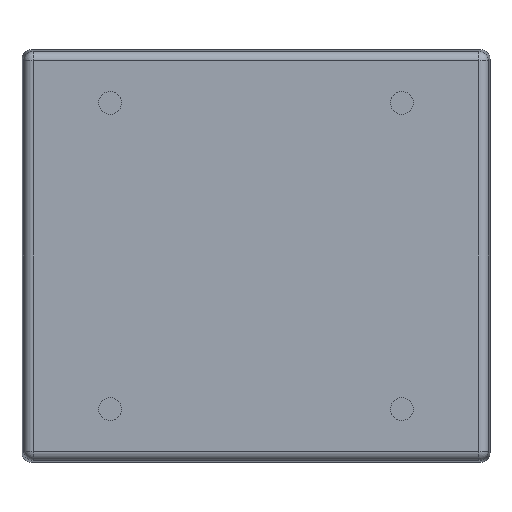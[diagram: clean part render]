
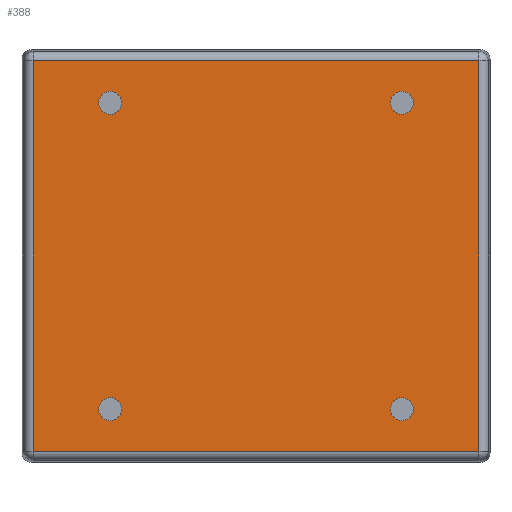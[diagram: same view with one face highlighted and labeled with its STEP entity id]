
A CAD part, front view. The second image highlights one B-rep face of the part: STEP entity #388.
In plain terms, the highlighted planar face has unit normal (0, -1, 0).
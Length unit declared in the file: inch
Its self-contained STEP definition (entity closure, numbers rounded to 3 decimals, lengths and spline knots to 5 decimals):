
#1=DIRECTION('',(0.,0.,1.));
#2=VECTOR('',#1,10.50865);
#3=CARTESIAN_POINT('',(6.00433,0.,-5.25433));
#4=LINE('',#3,#2);
#5=DIRECTION('',(1.,0.,0.));
#6=VECTOR('',#5,12.00865);
#7=CARTESIAN_POINT('',(-6.00433,0.,-5.25433));
#8=LINE('',#7,#6);
#9=DIRECTION('',(0.,0.,-1.));
#10=VECTOR('',#9,10.50865);
#11=CARTESIAN_POINT('',(-6.00433,0.,5.25433));
#12=LINE('',#11,#10);
#13=DIRECTION('',(-1.,0.,0.));
#14=VECTOR('',#13,12.00865);
#15=CARTESIAN_POINT('',(6.00433,0.,5.25433));
#16=LINE('',#15,#14);
#17=CARTESIAN_POINT('',(3.93,0.,4.125));
#18=DIRECTION('',(0.,-1.,0.));
#19=DIRECTION('',(1.,0.,0.));
#20=AXIS2_PLACEMENT_3D('',#17,#18,#19);
#22=CARTESIAN_POINT('',(3.93,0.,4.125));
#23=DIRECTION('',(0.,-1.,0.));
#24=DIRECTION('',(-1.,0.,0.));
#25=AXIS2_PLACEMENT_3D('',#22,#23,#24);
#27=CARTESIAN_POINT('',(-3.93,0.,4.125));
#28=DIRECTION('',(0.,-1.,0.));
#29=DIRECTION('',(1.,0.,0.));
#30=AXIS2_PLACEMENT_3D('',#27,#28,#29);
#32=CARTESIAN_POINT('',(-3.93,0.,4.125));
#33=DIRECTION('',(0.,-1.,0.));
#34=DIRECTION('',(-1.,0.,0.));
#35=AXIS2_PLACEMENT_3D('',#32,#33,#34);
#37=CARTESIAN_POINT('',(-3.93,0.,-4.125));
#38=DIRECTION('',(0.,-1.,0.));
#39=DIRECTION('',(1.,0.,0.));
#40=AXIS2_PLACEMENT_3D('',#37,#38,#39);
#42=CARTESIAN_POINT('',(-3.93,0.,-4.125));
#43=DIRECTION('',(0.,-1.,0.));
#44=DIRECTION('',(-1.,0.,0.));
#45=AXIS2_PLACEMENT_3D('',#42,#43,#44);
#47=CARTESIAN_POINT('',(3.93,0.,-4.125));
#48=DIRECTION('',(0.,-1.,0.));
#49=DIRECTION('',(1.,0.,0.));
#50=AXIS2_PLACEMENT_3D('',#47,#48,#49);
#52=CARTESIAN_POINT('',(3.93,0.,-4.125));
#53=DIRECTION('',(0.,-1.,0.));
#54=DIRECTION('',(-1.,0.,0.));
#55=AXIS2_PLACEMENT_3D('',#52,#53,#54);
#289=CARTESIAN_POINT('',(6.00433,0.,-5.25433));
#290=CARTESIAN_POINT('',(6.00433,0.,5.25433));
#291=VERTEX_POINT('',#289);
#292=VERTEX_POINT('',#290);
#297=CARTESIAN_POINT('',(-6.00433,0.,5.25433));
#298=VERTEX_POINT('',#297);
#299=CARTESIAN_POINT('',(-6.00433,0.,-5.25433));
#300=VERTEX_POINT('',#299);
#333=CARTESIAN_POINT('',(4.24,0.,4.125));
#334=CARTESIAN_POINT('',(3.62,0.,4.125));
#335=VERTEX_POINT('',#333);
#336=VERTEX_POINT('',#334);
#337=CARTESIAN_POINT('',(-3.62,0.,4.125));
#338=CARTESIAN_POINT('',(-4.24,0.,4.125));
#339=VERTEX_POINT('',#337);
#340=VERTEX_POINT('',#338);
#341=CARTESIAN_POINT('',(-3.62,0.,-4.125));
#342=CARTESIAN_POINT('',(-4.24,0.,-4.125));
#343=VERTEX_POINT('',#341);
#344=VERTEX_POINT('',#342);
#345=CARTESIAN_POINT('',(4.24,0.,-4.125));
#346=CARTESIAN_POINT('',(3.62,0.,-4.125));
#347=VERTEX_POINT('',#345);
#348=VERTEX_POINT('',#346);
#349=CARTESIAN_POINT('',(-6.25,0.,-5.5));
#350=DIRECTION('',(0.,-1.,0.));
#351=DIRECTION('',(1.,0.,0.));
#352=AXIS2_PLACEMENT_3D('',#349,#350,#351);
#353=PLANE('',#352);
#355=ORIENTED_EDGE('',*,*,#354,.F.);
#357=ORIENTED_EDGE('',*,*,#356,.F.);
#359=ORIENTED_EDGE('',*,*,#358,.F.);
#361=ORIENTED_EDGE('',*,*,#360,.F.);
#362=EDGE_LOOP('',(#355,#357,#359,#361));
#363=FACE_OUTER_BOUND('',#362,.F.);
#365=ORIENTED_EDGE('',*,*,#364,.T.);
#367=ORIENTED_EDGE('',*,*,#366,.T.);
#368=EDGE_LOOP('',(#365,#367));
#369=FACE_BOUND('',#368,.F.);
#371=ORIENTED_EDGE('',*,*,#370,.T.);
#373=ORIENTED_EDGE('',*,*,#372,.T.);
#374=EDGE_LOOP('',(#371,#373));
#375=FACE_BOUND('',#374,.F.);
#377=ORIENTED_EDGE('',*,*,#376,.T.);
#379=ORIENTED_EDGE('',*,*,#378,.T.);
#380=EDGE_LOOP('',(#377,#379));
#381=FACE_BOUND('',#380,.F.);
#383=ORIENTED_EDGE('',*,*,#382,.T.);
#385=ORIENTED_EDGE('',*,*,#384,.T.);
#386=EDGE_LOOP('',(#383,#385));
#387=FACE_BOUND('',#386,.F.);
#388=ADVANCED_FACE('',(#363,#369,#375,#381,#387),#353,.T.);
#21=CIRCLE('',#20,0.31);
#26=CIRCLE('',#25,0.31);
#31=CIRCLE('',#30,0.31);
#36=CIRCLE('',#35,0.31);
#41=CIRCLE('',#40,0.31);
#46=CIRCLE('',#45,0.31);
#51=CIRCLE('',#50,0.31);
#56=CIRCLE('',#55,0.31);
#354=EDGE_CURVE('',#291,#292,#4,.T.);
#356=EDGE_CURVE('',#300,#291,#8,.T.);
#358=EDGE_CURVE('',#298,#300,#12,.T.);
#360=EDGE_CURVE('',#292,#298,#16,.T.);
#364=EDGE_CURVE('',#335,#336,#21,.T.);
#366=EDGE_CURVE('',#336,#335,#26,.T.);
#370=EDGE_CURVE('',#339,#340,#31,.T.);
#372=EDGE_CURVE('',#340,#339,#36,.T.);
#376=EDGE_CURVE('',#343,#344,#41,.T.);
#378=EDGE_CURVE('',#344,#343,#46,.T.);
#382=EDGE_CURVE('',#347,#348,#51,.T.);
#384=EDGE_CURVE('',#348,#347,#56,.T.);
